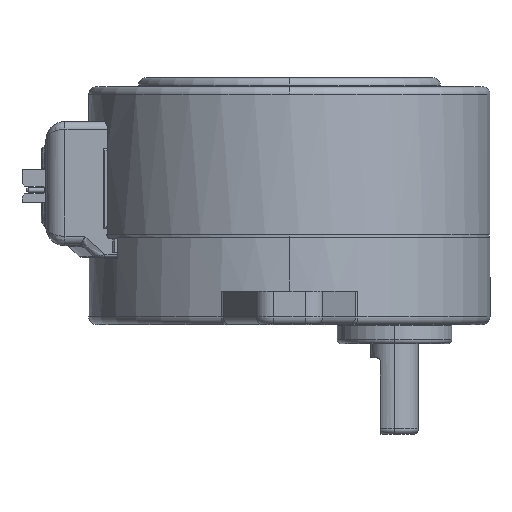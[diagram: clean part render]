
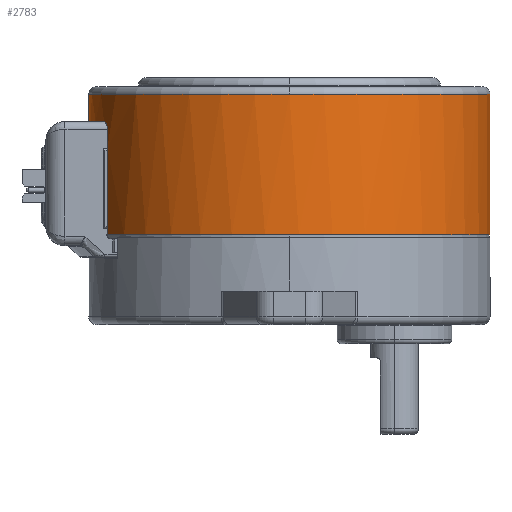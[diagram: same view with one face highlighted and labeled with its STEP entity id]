
A CAD part, left-side view. The second image highlights one B-rep face of the part: STEP entity #2783.
In plain terms, the highlighted cylindrical face has radius 21 mm (diameter 42 mm), a partial arc.
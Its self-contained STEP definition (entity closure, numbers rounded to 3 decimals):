
#39 = AXIS2_PLACEMENT_3D ( 'NONE', #2222, #676, #8267 ) ;
#568 = CARTESIAN_POINT ( 'NONE',  ( -8.691, 19.117, -3.493 ) ) ;
#598 = ORIENTED_EDGE ( 'NONE', *, *, #12581, .T. ) ;
#643 = VECTOR ( 'NONE', #6313, 1000. ) ;
#676 = DIRECTION ( 'NONE',  ( 0., 0., -1. ) ) ;
#678 = ORIENTED_EDGE ( 'NONE', *, *, #14448, .T. ) ;
#1005 = DIRECTION ( 'NONE',  ( 0., 1., 0. ) ) ;
#1034 = DIRECTION ( 'NONE',  ( 0., 0., 1. ) ) ;
#1130 = VERTEX_POINT ( 'NONE', #8634 ) ;
#1186 = AXIS2_PLACEMENT_3D ( 'NONE', #3191, #6912, #12879 ) ;
#1212 = CIRCLE ( 'NONE', #15117, 21. ) ;
#1258 = CARTESIAN_POINT ( 'NONE',  ( -8.8, 19.067, -5.91 ) ) ;
#1653 = LINE ( 'NONE', #4400, #14080 ) ;
#1895 = DIRECTION ( 'NONE',  ( 0., 0., 1. ) ) ;
#2117 = VERTEX_POINT ( 'NONE', #9925 ) ;
#2211 = DIRECTION ( 'NONE',  ( 0., 0., -1. ) ) ;
#2222 = CARTESIAN_POINT ( 'NONE',  ( 0., 0., -0.26 ) ) ;
#2399 = CARTESIAN_POINT ( 'NONE',  ( -8.8, 19.067, -15.31 ) ) ;
#2659 = LINE ( 'NONE', #7821, #643 ) ;
#2783 = ADVANCED_FACE ( 'NONE', ( #8180 ), #12064, .T. ) ;
#2833 = VERTEX_POINT ( 'NONE', #5180 ) ;
#2952 = LINE ( 'NONE', #5214, #3264 ) ;
#3191 = CARTESIAN_POINT ( 'NONE',  ( 0., 0., -0.26 ) ) ;
#3253 = AXIS2_PLACEMENT_3D ( 'NONE', #13269, #2211, #1005 ) ;
#3264 = VECTOR ( 'NONE', #4331, 1000. ) ;
#3965 = ORIENTED_EDGE ( 'NONE', *, *, #11872, .T. ) ;
#4169 = CARTESIAN_POINT ( 'NONE',  ( 0., 21., -0.26 ) ) ;
#4331 = DIRECTION ( 'NONE',  ( 0., 0., -1. ) ) ;
#4380 = CARTESIAN_POINT ( 'NONE',  ( -8.777, 19.078, -3.691 ) ) ;
#4400 = CARTESIAN_POINT ( 'NONE',  ( 0., -21., -1.96 ) ) ;
#4470 = ORIENTED_EDGE ( 'NONE', *, *, #12363, .T. ) ;
#4529 = CARTESIAN_POINT ( 'NONE',  ( -8.102, 19.374, -3.11 ) ) ;
#4590 = CARTESIAN_POINT ( 'NONE',  ( 0., 0., -14.96 ) ) ;
#4607 = EDGE_CURVE ( 'NONE', #12897, #2833, #2952, .T. ) ;
#4786 = B_SPLINE_CURVE_WITH_KNOTS ( 'NONE', 3,
 ( #11632, #4529, #7998, #5682, #12855, #11886, #568, #4380, #5506, #9311 ),
 .UNSPECIFIED., .F., .F.,
 ( 4, 2, 2, 2, 4 ),
 ( 0., 0., 0.001, 0.001, 0.001 ),
 .UNSPECIFIED. ) ;
#4795 = CARTESIAN_POINT ( 'NONE',  ( -8., 19.416, -3.11 ) ) ;
#4821 = LINE ( 'NONE', #2399, #14339 ) ;
#4924 = CIRCLE ( 'NONE', #39, 21. ) ;
#5072 = EDGE_CURVE ( 'NONE', #2117, #6477, #14051, .T. ) ;
#5180 = CARTESIAN_POINT ( 'NONE',  ( -8.8, 19.067, -14.31 ) ) ;
#5214 = CARTESIAN_POINT ( 'NONE',  ( -8.8, 19.067, -6.11 ) ) ;
#5506 = CARTESIAN_POINT ( 'NONE',  ( -8.8, 19.067, -3.799 ) ) ;
#5682 = CARTESIAN_POINT ( 'NONE',  ( -8.391, 19.251, -3.205 ) ) ;
#6098 = AXIS2_PLACEMENT_3D ( 'NONE', #4590, #9532, #14440 ) ;
#6313 = DIRECTION ( 'NONE',  ( 0., 0., -1. ) ) ;
#6477 = VERTEX_POINT ( 'NONE', #15373 ) ;
#6546 = ORIENTED_EDGE ( 'NONE', *, *, #15148, .F. ) ;
#6912 = DIRECTION ( 'NONE',  ( 0., 0., -1. ) ) ;
#7111 = CIRCLE ( 'NONE', #1186, 21. ) ;
#7156 = CARTESIAN_POINT ( 'NONE',  ( 0., 0., -3.11 ) ) ;
#7231 = DIRECTION ( 'NONE',  ( 0., -1., 0. ) ) ;
#7243 = EDGE_CURVE ( 'NONE', #1130, #11993, #1212, .T. ) ;
#7600 = VERTEX_POINT ( 'NONE', #8989 ) ;
#7750 = ORIENTED_EDGE ( 'NONE', *, *, #4607, .T. ) ;
#7778 = DIRECTION ( 'NONE',  ( 0., 0., -1. ) ) ;
#7821 = CARTESIAN_POINT ( 'NONE',  ( 0., 21., -1.96 ) ) ;
#7988 = VERTEX_POINT ( 'NONE', #11311 ) ;
#7998 = CARTESIAN_POINT ( 'NONE',  ( -8.201, 19.333, -3.129 ) ) ;
#8028 = VECTOR ( 'NONE', #1895, 1000. ) ;
#8122 = CARTESIAN_POINT ( 'NONE',  ( -21., 0., -0.26 ) ) ;
#8180 = FACE_OUTER_BOUND ( 'NONE', #9784, .T. ) ;
#8191 = LINE ( 'NONE', #9659, #8028 ) ;
#8267 = DIRECTION ( 'NONE',  ( 1., 0., 0. ) ) ;
#8326 = ORIENTED_EDGE ( 'NONE', *, *, #7243, .T. ) ;
#8509 = VERTEX_POINT ( 'NONE', #4169 ) ;
#8634 = CARTESIAN_POINT ( 'NONE',  ( 0., 21., -3.11 ) ) ;
#8989 = CARTESIAN_POINT ( 'NONE',  ( 0., -21., -0.26 ) ) ;
#9301 = ORIENTED_EDGE ( 'NONE', *, *, #11881, .F. ) ;
#9311 = CARTESIAN_POINT ( 'NONE',  ( -8.8, 19.067, -3.91 ) ) ;
#9532 = DIRECTION ( 'NONE',  ( 0., 0., -1. ) ) ;
#9576 = DIRECTION ( 'NONE',  ( 0., 0., 1. ) ) ;
#9659 = CARTESIAN_POINT ( 'NONE',  ( -8.8, 19.067, -1.96 ) ) ;
#9784 = EDGE_LOOP ( 'NONE', ( #6546, #678, #3965, #598, #8326, #4470, #13249, #7750, #9301, #15751 ) ) ;
#9925 = CARTESIAN_POINT ( 'NONE',  ( 0., -21., -14.96 ) ) ;
#9992 = VERTEX_POINT ( 'NONE', #8122 ) ;
#11311 = CARTESIAN_POINT ( 'NONE',  ( -8.8, 19.067, -3.91 ) ) ;
#11632 = CARTESIAN_POINT ( 'NONE',  ( -8., 19.416, -3.11 ) ) ;
#11872 = EDGE_CURVE ( 'NONE', #9992, #8509, #4924, .T. ) ;
#11881 = EDGE_CURVE ( 'NONE', #6477, #2833, #8191, .T. ) ;
#11886 = CARTESIAN_POINT ( 'NONE',  ( -8.629, 19.145, -3.405 ) ) ;
#11993 = VERTEX_POINT ( 'NONE', #4795 ) ;
#12064 = CYLINDRICAL_SURFACE ( 'NONE', #3253, 21. ) ;
#12363 = EDGE_CURVE ( 'NONE', #11993, #7988, #4786, .T. ) ;
#12581 = EDGE_CURVE ( 'NONE', #8509, #1130, #2659, .T. ) ;
#12855 = CARTESIAN_POINT ( 'NONE',  ( -8.478, 19.213, -3.26 ) ) ;
#12879 = DIRECTION ( 'NONE',  ( 1., 0., 0. ) ) ;
#12897 = VERTEX_POINT ( 'NONE', #1258 ) ;
#13160 = EDGE_CURVE ( 'NONE', #12897, #7988, #4821, .T. ) ;
#13249 = ORIENTED_EDGE ( 'NONE', *, *, #13160, .F. ) ;
#13269 = CARTESIAN_POINT ( 'NONE',  ( 0., 0., -1.96 ) ) ;
#14051 = CIRCLE ( 'NONE', #6098, 21. ) ;
#14080 = VECTOR ( 'NONE', #7778, 1000. ) ;
#14339 = VECTOR ( 'NONE', #1034, 1000. ) ;
#14440 = DIRECTION ( 'NONE',  ( 0., 1., 0. ) ) ;
#14448 = EDGE_CURVE ( 'NONE', #7600, #9992, #7111, .T. ) ;
#15117 = AXIS2_PLACEMENT_3D ( 'NONE', #7156, #9576, #7231 ) ;
#15148 = EDGE_CURVE ( 'NONE', #7600, #2117, #1653, .T. ) ;
#15373 = CARTESIAN_POINT ( 'NONE',  ( -8.8, 19.067, -14.96 ) ) ;
#15751 = ORIENTED_EDGE ( 'NONE', *, *, #5072, .F. ) ;
